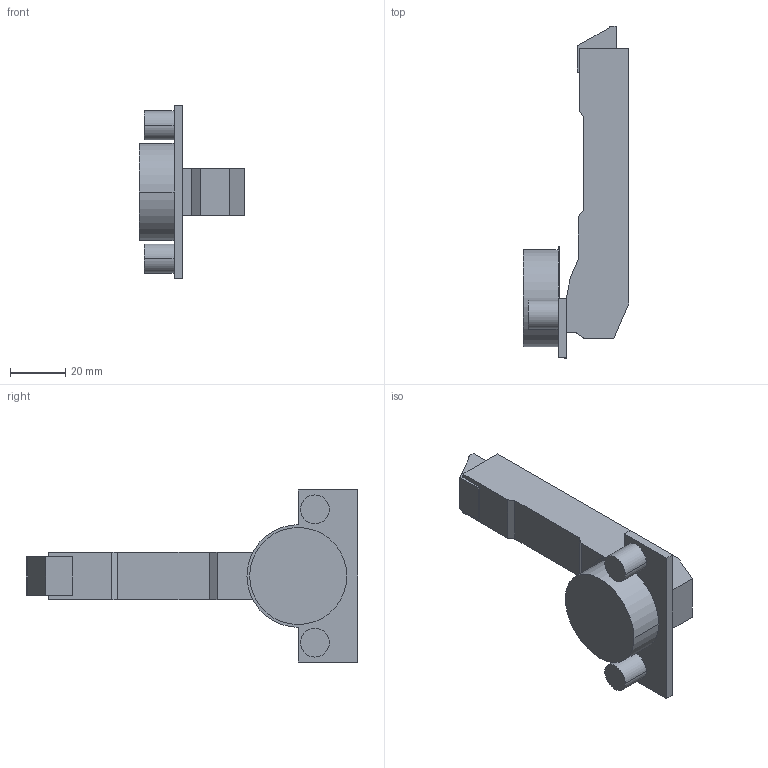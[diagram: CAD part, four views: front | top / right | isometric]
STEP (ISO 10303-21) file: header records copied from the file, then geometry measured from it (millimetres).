
FILE_DESCRIPTION (( 'STEP AP214' ), '1' );
FILE_NAME ('Scharnier TS Click-on 110° +90° S_BB, einliegend_Dübel.step', '2010-12-13T10:22:59', ( 'grass' ), ( '' ), 'SwSTEP 2.0', 'SolidWorks 2010', '' );
FILE_SCHEMA (( 'AUTOMOTIVE_DESIGN' ));
Length unit declared in the file: millimetre
Products named in the file (1): Scharnier TS Click-on 110° +90° S_BB, einliegend_Dübel
Bounding box: 38.15 x 119.6 x 62 mm (x, y, z)
Volume: 50951.2 mm3; surface area: 14335 mm2
Topology: 1 solids, 1 shells, 58 faces, 142 edges, 94 vertices
Faces by surface type: plane 40, cylinder 18
Entity records: 1740 total; most frequent: DIRECTION 296, CARTESIAN_POINT 295, ORIENTED_EDGE 284, EDGE_CURVE 142, VECTOR 106, LINE 106, AXIS2_PLACEMENT_3D 95, VERTEX_POINT 94
